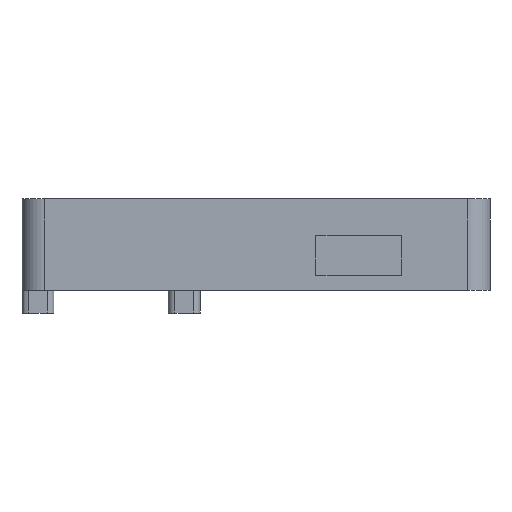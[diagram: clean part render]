
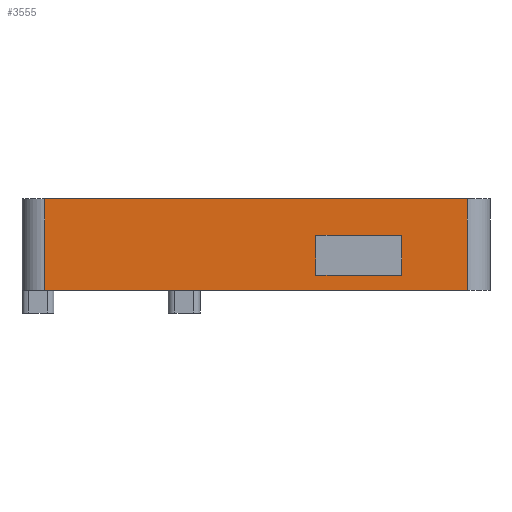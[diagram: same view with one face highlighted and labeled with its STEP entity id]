
A CAD part, front view. The second image highlights one B-rep face of the part: STEP entity #3555.
In plain terms, the highlighted planar face has unit normal (0, -1, 0).
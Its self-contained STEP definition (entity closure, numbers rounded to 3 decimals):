
#32 = PLANE('',#33);
#33 = AXIS2_PLACEMENT_3D('',#34,#35,#36);
#34 = CARTESIAN_POINT('',(20.5,-13.,-4.));
#35 = DIRECTION('',(-0.,-0.,1.));
#36 = DIRECTION('',(1.,0.,0.));
#468 = VERTEX_POINT('',#469);
#469 = CARTESIAN_POINT('',(18.5,-13.,-4.));
#488 = CYLINDRICAL_SURFACE('',#489,2.);
#489 = AXIS2_PLACEMENT_3D('',#490,#491,#492);
#490 = CARTESIAN_POINT('',(18.5,-11.,-4.));
#491 = DIRECTION('',(-0.,-0.,1.));
#492 = DIRECTION('',(1.,-0.,0.));
#500 = EDGE_CURVE('',#468,#501,#503,.T.);
#501 = VERTEX_POINT('',#502);
#502 = CARTESIAN_POINT('',(-18.5,-13.,-4.));
#503 = SURFACE_CURVE('',#504,(#508,#515),.PCURVE_S1.);
#504 = LINE('',#505,#506);
#505 = CARTESIAN_POINT('',(20.5,-13.,-4.));
#506 = VECTOR('',#507,1.);
#507 = DIRECTION('',(-1.,-0.,-0.));
#508 = PCURVE('',#32,#509);
#509 = DEFINITIONAL_REPRESENTATION('',(#510),#514);
#510 = LINE('',#511,#512);
#511 = CARTESIAN_POINT('',(0.,-0.));
#512 = VECTOR('',#513,1.);
#513 = DIRECTION('',(-1.,0.));
#514 = ( GEOMETRIC_REPRESENTATION_CONTEXT(2) 
PARAMETRIC_REPRESENTATION_CONTEXT() REPRESENTATION_CONTEXT('2D SPACE',''
  ) );
#515 = PCURVE('',#516,#521);
#516 = PLANE('',#517);
#517 = AXIS2_PLACEMENT_3D('',#518,#519,#520);
#518 = CARTESIAN_POINT('',(20.5,-13.,-4.));
#519 = DIRECTION('',(-0.,1.,-0.));
#520 = DIRECTION('',(0.,0.,-1.));
#521 = DEFINITIONAL_REPRESENTATION('',(#522),#526);
#522 = LINE('',#523,#524);
#523 = CARTESIAN_POINT('',(-0.,-0.));
#524 = VECTOR('',#525,1.);
#525 = DIRECTION('',(-0.,1.));
#526 = ( GEOMETRIC_REPRESENTATION_CONTEXT(2) 
PARAMETRIC_REPRESENTATION_CONTEXT() REPRESENTATION_CONTEXT('2D SPACE',''
  ) );
#549 = CYLINDRICAL_SURFACE('',#550,2.);
#550 = AXIS2_PLACEMENT_3D('',#551,#552,#553);
#551 = CARTESIAN_POINT('',(-18.5,-11.,-4.));
#552 = DIRECTION('',(-0.,-0.,1.));
#553 = DIRECTION('',(-0.,-1.,-0.));
#1890 = PLANE('',#1891);
#1891 = AXIS2_PLACEMENT_3D('',#1892,#1893,#1894);
#1892 = CARTESIAN_POINT('',(20.5,-13.,4.));
#1893 = DIRECTION('',(-0.,-0.,1.));
#1894 = DIRECTION('',(1.,0.,0.));
#1979 = VERTEX_POINT('',#1980);
#1980 = CARTESIAN_POINT('',(18.5,-13.,4.));
#2006 = EDGE_CURVE('',#1979,#2007,#2009,.T.);
#2007 = VERTEX_POINT('',#2008);
#2008 = CARTESIAN_POINT('',(-18.5,-13.,4.));
#2009 = SURFACE_CURVE('',#2010,(#2014,#2021),.PCURVE_S1.);
#2010 = LINE('',#2011,#2012);
#2011 = CARTESIAN_POINT('',(20.5,-13.,4.));
#2012 = VECTOR('',#2013,1.);
#2013 = DIRECTION('',(-1.,-0.,-0.));
#2014 = PCURVE('',#1890,#2015);
#2015 = DEFINITIONAL_REPRESENTATION('',(#2016),#2020);
#2016 = LINE('',#2017,#2018);
#2017 = CARTESIAN_POINT('',(0.,-0.));
#2018 = VECTOR('',#2019,1.);
#2019 = DIRECTION('',(-1.,0.));
#2020 = ( GEOMETRIC_REPRESENTATION_CONTEXT(2) 
PARAMETRIC_REPRESENTATION_CONTEXT() REPRESENTATION_CONTEXT('2D SPACE',''
  ) );
#2021 = PCURVE('',#516,#2022);
#2022 = DEFINITIONAL_REPRESENTATION('',(#2023),#2027);
#2023 = LINE('',#2024,#2025);
#2024 = CARTESIAN_POINT('',(-8.,-0.));
#2025 = VECTOR('',#2026,1.);
#2026 = DIRECTION('',(-0.,1.));
#2027 = ( GEOMETRIC_REPRESENTATION_CONTEXT(2) 
PARAMETRIC_REPRESENTATION_CONTEXT() REPRESENTATION_CONTEXT('2D SPACE',''
  ) );
#2609 = PLANE('',#2610);
#2610 = AXIS2_PLACEMENT_3D('',#2611,#2612,#2613);
#2611 = CARTESIAN_POINT('',(12.75,-13.,0.8));
#2612 = DIRECTION('',(-0.,-0.,-1.));
#2613 = DIRECTION('',(1.,0.,0.));
#2652 = VERTEX_POINT('',#2653);
#2653 = CARTESIAN_POINT('',(12.75,-13.,0.8));
#2669 = PLANE('',#2670);
#2670 = AXIS2_PLACEMENT_3D('',#2671,#2672,#2673);
#2671 = CARTESIAN_POINT('',(12.75,-13.,-2.7));
#2672 = DIRECTION('',(-1.,-0.,-0.));
#2673 = DIRECTION('',(0.,0.,-1.));
#2710 = VERTEX_POINT('',#2711);
#2711 = CARTESIAN_POINT('',(5.25,-13.,0.8));
#2725 = PLANE('',#2726);
#2726 = AXIS2_PLACEMENT_3D('',#2727,#2728,#2729);
#2727 = CARTESIAN_POINT('',(5.25,-13.,-2.7));
#2728 = DIRECTION('',(-1.,-0.,-0.));
#2729 = DIRECTION('',(0.,0.,-1.));
#2737 = EDGE_CURVE('',#2652,#2710,#2738,.T.);
#2738 = SURFACE_CURVE('',#2739,(#2743,#2750),.PCURVE_S1.);
#2739 = LINE('',#2740,#2741);
#2740 = CARTESIAN_POINT('',(9.,-13.,0.8));
#2741 = VECTOR('',#2742,1.);
#2742 = DIRECTION('',(-1.,0.,-0.));
#2743 = PCURVE('',#2609,#2744);
#2744 = DEFINITIONAL_REPRESENTATION('',(#2745),#2749);
#2745 = LINE('',#2746,#2747);
#2746 = CARTESIAN_POINT('',(-3.75,0.));
#2747 = VECTOR('',#2748,1.);
#2748 = DIRECTION('',(-1.,0.));
#2749 = ( GEOMETRIC_REPRESENTATION_CONTEXT(2) 
PARAMETRIC_REPRESENTATION_CONTEXT() REPRESENTATION_CONTEXT('2D SPACE',''
  ) );
#2750 = PCURVE('',#516,#2751);
#2751 = DEFINITIONAL_REPRESENTATION('',(#2752),#2756);
#2752 = LINE('',#2753,#2754);
#2753 = CARTESIAN_POINT('',(-4.8,11.5));
#2754 = VECTOR('',#2755,1.);
#2755 = DIRECTION('',(-0.,1.));
#2756 = ( GEOMETRIC_REPRESENTATION_CONTEXT(2) 
PARAMETRIC_REPRESENTATION_CONTEXT() REPRESENTATION_CONTEXT('2D SPACE',''
  ) );
#2765 = VERTEX_POINT('',#2766);
#2766 = CARTESIAN_POINT('',(5.25,-13.,-2.7));
#2782 = PLANE('',#2783);
#2783 = AXIS2_PLACEMENT_3D('',#2784,#2785,#2786);
#2784 = CARTESIAN_POINT('',(12.75,-13.,-2.7));
#2785 = DIRECTION('',(-0.,-0.,-1.));
#2786 = DIRECTION('',(1.,0.,0.));
#2816 = EDGE_CURVE('',#2765,#2710,#2817,.T.);
#2817 = SURFACE_CURVE('',#2818,(#2822,#2829),.PCURVE_S1.);
#2818 = LINE('',#2819,#2820);
#2819 = CARTESIAN_POINT('',(5.25,-13.,-0.95));
#2820 = VECTOR('',#2821,1.);
#2821 = DIRECTION('',(0.,0.,1.));
#2822 = PCURVE('',#2725,#2823);
#2823 = DEFINITIONAL_REPRESENTATION('',(#2824),#2828);
#2824 = LINE('',#2825,#2826);
#2825 = CARTESIAN_POINT('',(-1.75,-0.));
#2826 = VECTOR('',#2827,1.);
#2827 = DIRECTION('',(-1.,-0.));
#2828 = ( GEOMETRIC_REPRESENTATION_CONTEXT(2) 
PARAMETRIC_REPRESENTATION_CONTEXT() REPRESENTATION_CONTEXT('2D SPACE',''
  ) );
#2829 = PCURVE('',#516,#2830);
#2830 = DEFINITIONAL_REPRESENTATION('',(#2831),#2835);
#2831 = LINE('',#2832,#2833);
#2832 = CARTESIAN_POINT('',(-3.05,15.25));
#2833 = VECTOR('',#2834,1.);
#2834 = DIRECTION('',(-1.,-0.));
#2835 = ( GEOMETRIC_REPRESENTATION_CONTEXT(2) 
PARAMETRIC_REPRESENTATION_CONTEXT() REPRESENTATION_CONTEXT('2D SPACE',''
  ) );
#2841 = VERTEX_POINT('',#2842);
#2842 = CARTESIAN_POINT('',(12.75,-13.,-2.7));
#2887 = EDGE_CURVE('',#2841,#2765,#2888,.T.);
#2888 = SURFACE_CURVE('',#2889,(#2893,#2900),.PCURVE_S1.);
#2889 = LINE('',#2890,#2891);
#2890 = CARTESIAN_POINT('',(9.,-13.,-2.7));
#2891 = VECTOR('',#2892,1.);
#2892 = DIRECTION('',(-1.,0.,-0.));
#2893 = PCURVE('',#2782,#2894);
#2894 = DEFINITIONAL_REPRESENTATION('',(#2895),#2899);
#2895 = LINE('',#2896,#2897);
#2896 = CARTESIAN_POINT('',(-3.75,0.));
#2897 = VECTOR('',#2898,1.);
#2898 = DIRECTION('',(-1.,0.));
#2899 = ( GEOMETRIC_REPRESENTATION_CONTEXT(2) 
PARAMETRIC_REPRESENTATION_CONTEXT() REPRESENTATION_CONTEXT('2D SPACE',''
  ) );
#2900 = PCURVE('',#516,#2901);
#2901 = DEFINITIONAL_REPRESENTATION('',(#2902),#2906);
#2902 = LINE('',#2903,#2904);
#2903 = CARTESIAN_POINT('',(-1.3,11.5));
#2904 = VECTOR('',#2905,1.);
#2905 = DIRECTION('',(-0.,1.));
#2906 = ( GEOMETRIC_REPRESENTATION_CONTEXT(2) 
PARAMETRIC_REPRESENTATION_CONTEXT() REPRESENTATION_CONTEXT('2D SPACE',''
  ) );
#2971 = EDGE_CURVE('',#2841,#2652,#2972,.T.);
#2972 = SURFACE_CURVE('',#2973,(#2977,#2984),.PCURVE_S1.);
#2973 = LINE('',#2974,#2975);
#2974 = CARTESIAN_POINT('',(12.75,-13.,-0.95));
#2975 = VECTOR('',#2976,1.);
#2976 = DIRECTION('',(0.,0.,1.));
#2977 = PCURVE('',#2669,#2978);
#2978 = DEFINITIONAL_REPRESENTATION('',(#2979),#2983);
#2979 = LINE('',#2980,#2981);
#2980 = CARTESIAN_POINT('',(-1.75,-0.));
#2981 = VECTOR('',#2982,1.);
#2982 = DIRECTION('',(-1.,-0.));
#2983 = ( GEOMETRIC_REPRESENTATION_CONTEXT(2) 
PARAMETRIC_REPRESENTATION_CONTEXT() REPRESENTATION_CONTEXT('2D SPACE',''
  ) );
#2984 = PCURVE('',#516,#2985);
#2985 = DEFINITIONAL_REPRESENTATION('',(#2986),#2990);
#2986 = LINE('',#2987,#2988);
#2987 = CARTESIAN_POINT('',(-3.05,7.75));
#2988 = VECTOR('',#2989,1.);
#2989 = DIRECTION('',(-1.,-0.));
#2990 = ( GEOMETRIC_REPRESENTATION_CONTEXT(2) 
PARAMETRIC_REPRESENTATION_CONTEXT() REPRESENTATION_CONTEXT('2D SPACE',''
  ) );
#3535 = EDGE_CURVE('',#501,#2007,#3536,.T.);
#3536 = SURFACE_CURVE('',#3537,(#3541,#3548),.PCURVE_S1.);
#3537 = LINE('',#3538,#3539);
#3538 = CARTESIAN_POINT('',(-18.5,-13.,-4.));
#3539 = VECTOR('',#3540,1.);
#3540 = DIRECTION('',(-0.,-0.,1.));
#3541 = PCURVE('',#549,#3542);
#3542 = DEFINITIONAL_REPRESENTATION('',(#3543),#3547);
#3543 = LINE('',#3544,#3545);
#3544 = CARTESIAN_POINT('',(-0.,0.));
#3545 = VECTOR('',#3546,1.);
#3546 = DIRECTION('',(-0.,1.));
#3547 = ( GEOMETRIC_REPRESENTATION_CONTEXT(2) 
PARAMETRIC_REPRESENTATION_CONTEXT() REPRESENTATION_CONTEXT('2D SPACE',''
  ) );
#3548 = PCURVE('',#516,#3549);
#3549 = DEFINITIONAL_REPRESENTATION('',(#3550),#3554);
#3550 = LINE('',#3551,#3552);
#3551 = CARTESIAN_POINT('',(-0.,39.));
#3552 = VECTOR('',#3553,1.);
#3553 = DIRECTION('',(-1.,0.));
#3554 = ( GEOMETRIC_REPRESENTATION_CONTEXT(2) 
PARAMETRIC_REPRESENTATION_CONTEXT() REPRESENTATION_CONTEXT('2D SPACE',''
  ) );
#3555 = ADVANCED_FACE('',(#3556,#3582),#516,.F.);
#3556 = FACE_BOUND('',#3557,.T.);
#3557 = EDGE_LOOP('',(#3558,#3559,#3580,#3581));
#3558 = ORIENTED_EDGE('',*,*,#500,.F.);
#3559 = ORIENTED_EDGE('',*,*,#3560,.T.);
#3560 = EDGE_CURVE('',#468,#1979,#3561,.T.);
#3561 = SURFACE_CURVE('',#3562,(#3566,#3573),.PCURVE_S1.);
#3562 = LINE('',#3563,#3564);
#3563 = CARTESIAN_POINT('',(18.5,-13.,-4.));
#3564 = VECTOR('',#3565,1.);
#3565 = DIRECTION('',(-0.,-0.,1.));
#3566 = PCURVE('',#516,#3567);
#3567 = DEFINITIONAL_REPRESENTATION('',(#3568),#3572);
#3568 = LINE('',#3569,#3570);
#3569 = CARTESIAN_POINT('',(-0.,2.));
#3570 = VECTOR('',#3571,1.);
#3571 = DIRECTION('',(-1.,0.));
#3572 = ( GEOMETRIC_REPRESENTATION_CONTEXT(2) 
PARAMETRIC_REPRESENTATION_CONTEXT() REPRESENTATION_CONTEXT('2D SPACE',''
  ) );
#3573 = PCURVE('',#488,#3574);
#3574 = DEFINITIONAL_REPRESENTATION('',(#3575),#3579);
#3575 = LINE('',#3576,#3577);
#3576 = CARTESIAN_POINT('',(-1.571,0.));
#3577 = VECTOR('',#3578,1.);
#3578 = DIRECTION('',(-0.,1.));
#3579 = ( GEOMETRIC_REPRESENTATION_CONTEXT(2) 
PARAMETRIC_REPRESENTATION_CONTEXT() REPRESENTATION_CONTEXT('2D SPACE',''
  ) );
#3580 = ORIENTED_EDGE('',*,*,#2006,.T.);
#3581 = ORIENTED_EDGE('',*,*,#3535,.F.);
#3582 = FACE_BOUND('',#3583,.T.);
#3583 = EDGE_LOOP('',(#3584,#3585,#3586,#3587));
#3584 = ORIENTED_EDGE('',*,*,#2971,.F.);
#3585 = ORIENTED_EDGE('',*,*,#2887,.T.);
#3586 = ORIENTED_EDGE('',*,*,#2816,.T.);
#3587 = ORIENTED_EDGE('',*,*,#2737,.F.);
